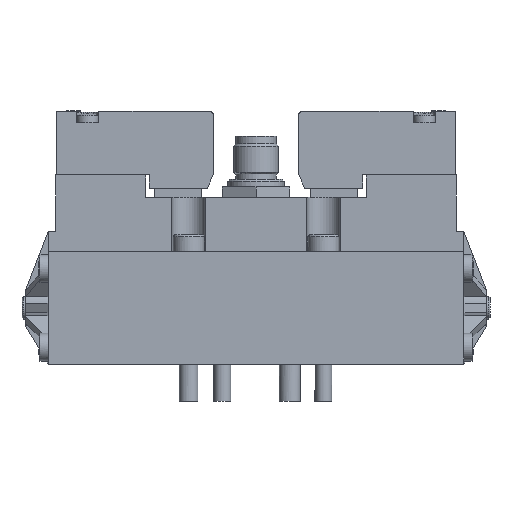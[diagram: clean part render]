
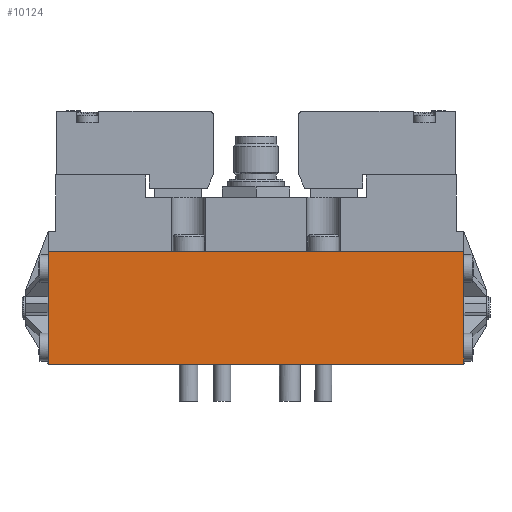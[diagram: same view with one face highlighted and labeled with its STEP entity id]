
A CAD part, front view. The second image highlights one B-rep face of the part: STEP entity #10124.
In plain terms, the highlighted planar face has unit normal (0, -1, 0).
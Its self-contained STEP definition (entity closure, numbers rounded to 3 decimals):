
#5160=CARTESIAN_POINT('',(-55.5,-21.0,0.0));
#5161=VERTEX_POINT('',#5160);
#5168=CARTESIAN_POINT('',(-55.5,-21.0,30.0));
#5169=VERTEX_POINT('',#5168);
#5170=CARTESIAN_POINT('',(-55.5,-21.0,0.0));
#5171=DIRECTION('',(0.0,0.0,1.0));
#5172=VECTOR('',#5171,30.0);
#5173=LINE('',#5170,#5172);
#5174=EDGE_CURVE('',#5161,#5169,#5173,.T.);
#5410=CARTESIAN_POINT('',(55.5,-21.,30.0));
#5411=VERTEX_POINT('',#5410);
#5412=CARTESIAN_POINT('',(55.5,-21.,30.0));
#5413=DIRECTION('',(-1.0,0.0,0.0));
#5414=VECTOR('',#5413,111.);
#5415=LINE('',#5412,#5414);
#5416=EDGE_CURVE('',#5411,#5169,#5415,.T.);
#5661=CARTESIAN_POINT('',(55.5,-21.,0.0));
#5662=VERTEX_POINT('',#5661);
#5669=CARTESIAN_POINT('',(55.5,-21.,0.0));
#5670=DIRECTION('',(-1.0,0.0,0.0));
#5671=VECTOR('',#5670,111.);
#5672=LINE('',#5669,#5671);
#5673=EDGE_CURVE('',#5662,#5161,#5672,.T.);
#7990=CARTESIAN_POINT('',(55.5,-21.,0.0));
#7991=DIRECTION('',(0.0,0.0,1.0));
#7992=VECTOR('',#7991,30.0);
#7993=LINE('',#7990,#7992);
#7994=EDGE_CURVE('',#5662,#5411,#7993,.T.);
#10113=CARTESIAN_POINT('',(55.5,-21.,0.0));
#10114=DIRECTION('',(0.0,-1.0,0.0));
#10115=DIRECTION('',(0.0,0.0,-1.0));
#10116=AXIS2_PLACEMENT_3D('',#10113,#10114,#10115);
#10117=PLANE('',#10116);
#10118=ORIENTED_EDGE('',*,*,#5673,.F.);
#10119=ORIENTED_EDGE('',*,*,#7994,.T.);
#10120=ORIENTED_EDGE('',*,*,#5416,.T.);
#10121=ORIENTED_EDGE('',*,*,#5174,.F.);
#10122=EDGE_LOOP('',(#10118,#10119,#10120,#10121));
#10123=FACE_OUTER_BOUND('',#10122,.T.);
#10124=ADVANCED_FACE('',(#10123),#10117,.T.);
